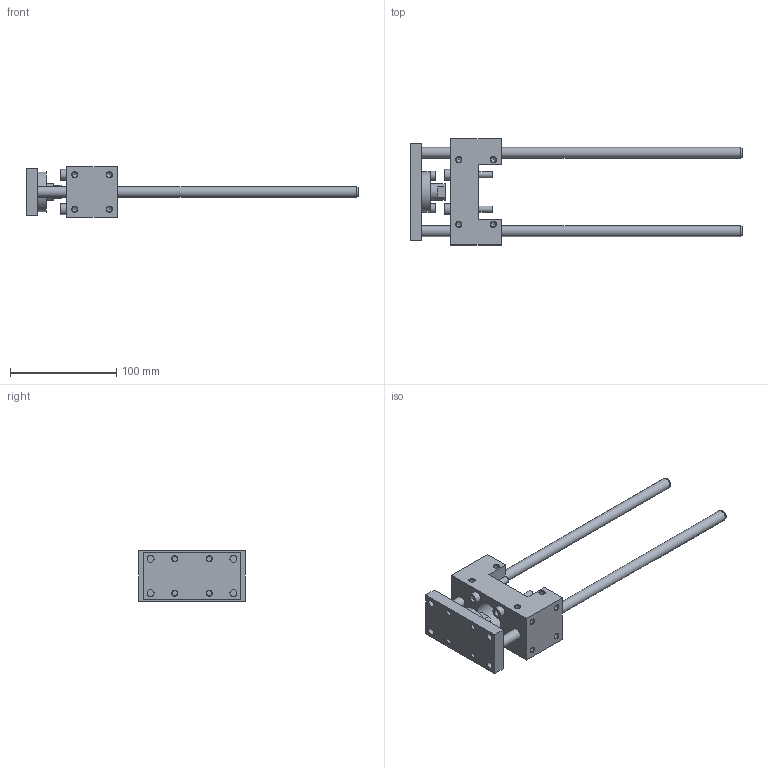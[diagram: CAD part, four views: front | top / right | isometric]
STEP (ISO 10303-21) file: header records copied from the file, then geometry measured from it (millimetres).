
FILE_DESCRIPTION( ( 'STEP AP214' ), '1' );
FILE_NAME( 'U:/Etudes/Top Solid/BIBLIO 3D AVM/TOP/PNEUMATIQUE/GUIDAGES/Type 34 (en U)/_Légère/3444130.step', '2005-05-27T12:20:06', ( ' ' ), ( ' ' ), 'XStep 1.0', ' ', ' ' );
FILE_SCHEMA( ( 'automotive_design' ) );
Length unit declared in the file: metre
Products named in the file (2): 1; 2
Bounding box: 313 x 100 x 48 mm (x, y, z)
Volume: 249128.7 mm3; surface area: 72486.6 mm2
Topology: 2 solids, 5 shells, 207 faces, 500 edges, 327 vertices
Faces by surface type: plane 90, cylinder 72, cone 45
Full cylindrical faces by diameter (mm): 4.134 x4, 4.918 x28, 5 x4, 5.5 x2, 6 x8, 6.5 x8, 8.5 x2, 8.647 x2, 10 x8, 16 x1, 18 x1, 22.8 x1, 25 x1, 30 x1, 38 x1
Entity records: 6811 total; most frequent: CARTESIAN_POINT 993, DIRECTION 882, ORIENTED_EDGE 628, EDGE_LOOP 376, AXIS2_PLACEMENT_3D 365, EDGE_CURVE 314, FACE_OUTER_BOUND 279, VERTEX_POINT 272
